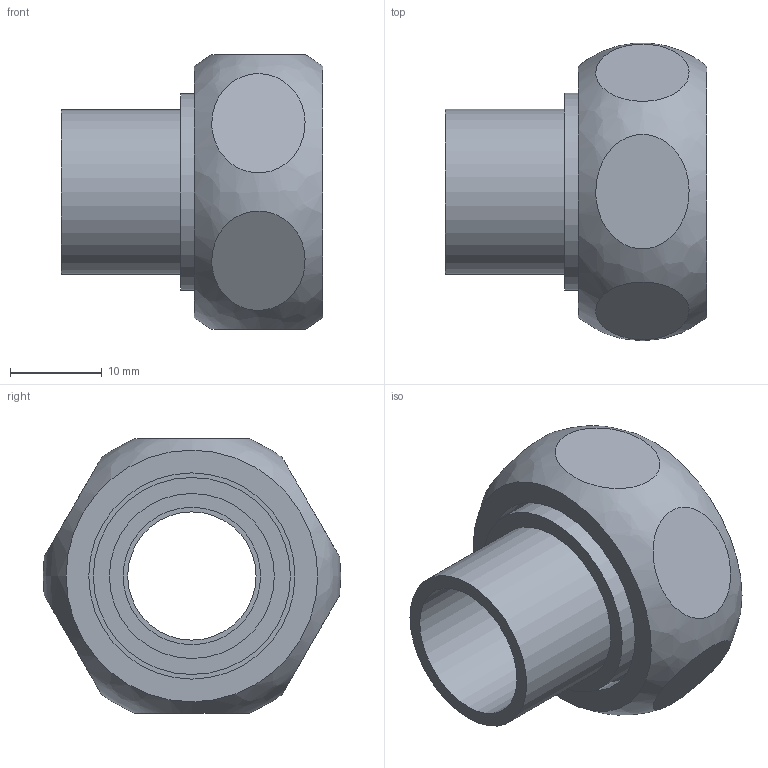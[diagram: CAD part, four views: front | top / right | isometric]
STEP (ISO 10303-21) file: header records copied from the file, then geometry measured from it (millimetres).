
FILE_DESCRIPTION((''),'2;1');
FILE_NAME('\\LG50001\SANHA_Legnica\Engineering\Public\RYSUNKI\SANHA POLSKA\4360\step\143601534.stp','2014-01-27T08:39:33',('haldrzynski'),(''),'Autodesk Inventor 2009','Autodesk Inventor 2009','');
FILE_SCHEMA(('AUTOMOTIVE_DESIGN { 1 0 10303 214 1 1 1 1 }'));
Length unit declared in the file: millimetre
Products named in the file (3): 143601534; 14381_15-34(1); 14374_34(2)
Assembly tree (2 placements, depth 2):
  143601534
    14381_15-34(1)
    14374_34(2)
Bounding box: 28.5 x 32.47 x 30 mm (x, y, z)
Volume: 7421.8 mm3; surface area: 6017.3 mm2
Topology: 2 solids, 2 shells, 24 faces, 34 edges, 24 vertices
Faces by surface type: plane 14, cylinder 8, torus 1, bspline 1
Full cylindrical faces by diameter (mm): 14 x1, 15 x1, 18 x1, 21 x1, 21.5 x1, 22.5 x1, 23.5 x1, 24.117 x1
Entity records: 1539 total; most frequent: CARTESIAN_POINT 1057, DIRECTION 92, ORIENTED_EDGE 48, EDGE_LOOP 48, AXIS2_PLACEMENT_3D 46, VERTEX_POINT 24, EDGE_CURVE 24, FACE_OUTER_BOUND 24
